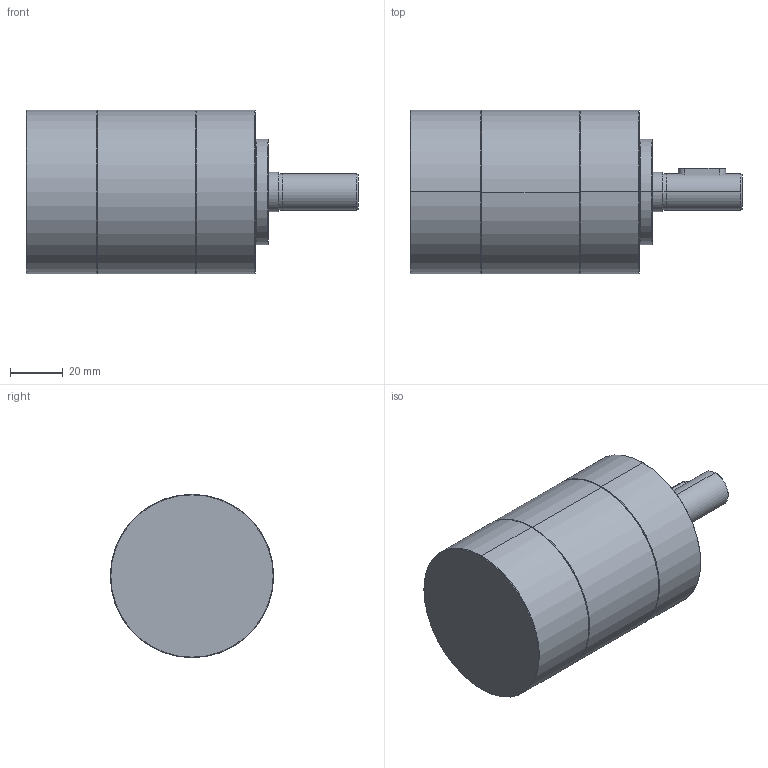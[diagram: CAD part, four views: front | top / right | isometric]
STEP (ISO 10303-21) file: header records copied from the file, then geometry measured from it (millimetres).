
FILE_DESCRIPTION (( 'STEP AP203' ), '1' );
FILE_NAME ('PI62-2.STEP', '2013-11-27T15:37:02', ( '' ), ( '' ), 'SwSTEP 2.0', 'SolidWorks 2012', '' );
FILE_SCHEMA (( 'CONFIG_CONTROL_DESIGN' ));
Length unit declared in the file: millimetre
Products named in the file (2): Group1^Baugruppe61_01; PI62-2
Assembly tree (1 placements, depth 2):
  PI62-2
    Group1^Baugruppe61_01
Bounding box: 126 x 62 x 62 mm (x, y, z)
Volume: 281884.6 mm3; surface area: 36101.3 mm2
Topology: 5 solids, 5 shells, 162 faces, 344 edges, 203 vertices
Faces by surface type: cylinder 70, cone 52, plane 32, torus 8
Entity records: 4488 total; most frequent: DIRECTION 860, CARTESIAN_POINT 703, ORIENTED_EDGE 668, AXIS2_PLACEMENT_3D 360, EDGE_CURVE 334, VERTEX_POINT 203, CIRCLE 194, EDGE_LOOP 183
